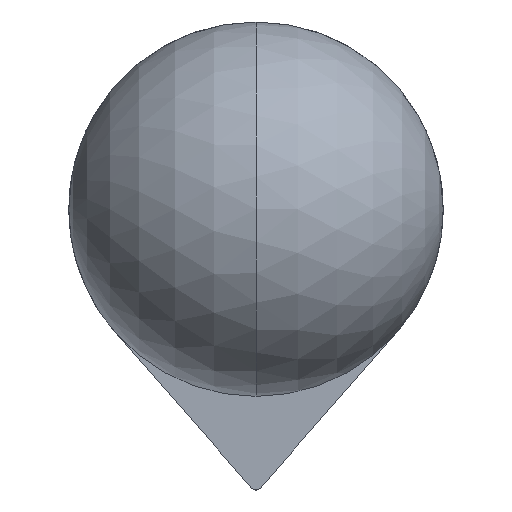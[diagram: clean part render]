
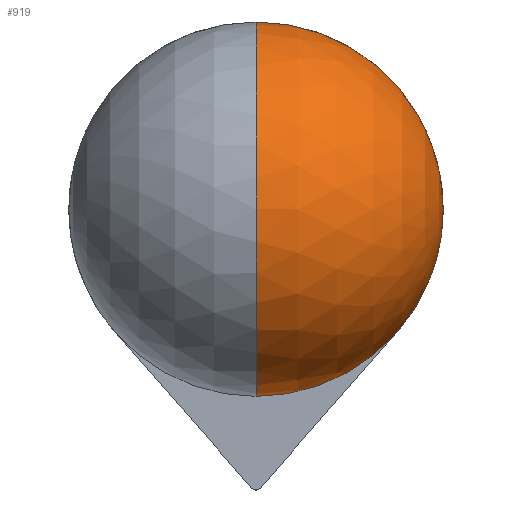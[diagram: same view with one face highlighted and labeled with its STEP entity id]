
A CAD part, front view. The second image highlights one B-rep face of the part: STEP entity #919.
In plain terms, the highlighted spherical face has radius 10 mm.
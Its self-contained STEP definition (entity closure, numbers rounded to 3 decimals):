
#4 = EDGE_CURVE ( 'NONE', #1007, #673, #645, .T. ) ;
#52 = AXIS2_PLACEMENT_3D ( 'NONE', #968, #956, #497 ) ;
#76 = CARTESIAN_POINT ( 'NONE',  ( 0., 64., 0. ) ) ;
#101 = CARTESIAN_POINT ( 'NONE',  ( 0., 64., 10. ) ) ;
#145 = DIRECTION ( 'NONE',  ( -1., 0., 0. ) ) ;
#174 = VERTEX_POINT ( 'NONE', #101 ) ;
#177 = SPHERICAL_SURFACE ( 'NONE', #786, 10. ) ;
#283 = CARTESIAN_POINT ( 'NONE',  ( -7.514, 64., -6.599 ) ) ;
#342 = DIRECTION ( 'NONE',  ( 0., 0., -1. ) ) ;
#380 = CARTESIAN_POINT ( 'NONE',  ( 0., 74., 0. ) ) ;
#392 = CARTESIAN_POINT ( 'NONE',  ( 0., 64., 0. ) ) ;
#410 = ORIENTED_EDGE ( 'NONE', *, *, #840, .T. ) ;
#438 = CARTESIAN_POINT ( 'NONE',  ( 0., 64., -10. ) ) ;
#445 = ORIENTED_EDGE ( 'NONE', *, *, #1142, .T. ) ;
#450 = AXIS2_PLACEMENT_3D ( 'NONE', #520, #896, #724 ) ;
#473 = DIRECTION ( 'NONE',  ( -1., 0., 0. ) ) ;
#480 = CIRCLE ( 'NONE', #810, 10. ) ;
#497 = DIRECTION ( 'NONE',  ( 0., 0., 1. ) ) ;
#520 = CARTESIAN_POINT ( 'NONE',  ( 0., 64., 0. ) ) ;
#523 = VERTEX_POINT ( 'NONE', #283 ) ;
#557 = EDGE_LOOP ( 'NONE', ( #410, #445, #734, #773 ) ) ;
#639 = CIRCLE ( 'NONE', #643, 10. ) ;
#643 = AXIS2_PLACEMENT_3D ( 'NONE', #76, #973, #890 ) ;
#645 = CIRCLE ( 'NONE', #450, 10. ) ;
#673 = VERTEX_POINT ( 'NONE', #380 ) ;
#707 = CIRCLE ( 'NONE', #52, 10. ) ;
#724 = DIRECTION ( 'NONE',  ( 0., 0., -1. ) ) ;
#734 = ORIENTED_EDGE ( 'NONE', *, *, #4, .F. ) ;
#773 = ORIENTED_EDGE ( 'NONE', *, *, #1014, .T. ) ;
#786 = AXIS2_PLACEMENT_3D ( 'NONE', #865, #145, #342 ) ;
#810 = AXIS2_PLACEMENT_3D ( 'NONE', #392, #473, #1010 ) ;
#811 = FACE_OUTER_BOUND ( 'NONE', #557, .T. ) ;
#840 = EDGE_CURVE ( 'NONE', #523, #174, #707, .T. ) ;
#865 = CARTESIAN_POINT ( 'NONE',  ( 0., 64., 0. ) ) ;
#890 = DIRECTION ( 'NONE',  ( 0., 0., 1. ) ) ;
#896 = DIRECTION ( 'NONE',  ( 1., 0., 0. ) ) ;
#919 = ADVANCED_FACE ( 'NONE', ( #811 ), #177, .T. ) ;
#956 = DIRECTION ( 'NONE',  ( 0., 1., 0. ) ) ;
#968 = CARTESIAN_POINT ( 'NONE',  ( 0., 64., 0. ) ) ;
#973 = DIRECTION ( 'NONE',  ( 0., 1., 0. ) ) ;
#1007 = VERTEX_POINT ( 'NONE', #438 ) ;
#1010 = DIRECTION ( 'NONE',  ( 0., 0., 1. ) ) ;
#1014 = EDGE_CURVE ( 'NONE', #1007, #523, #639, .T. ) ;
#1142 = EDGE_CURVE ( 'NONE', #174, #673, #480, .T. ) ;
